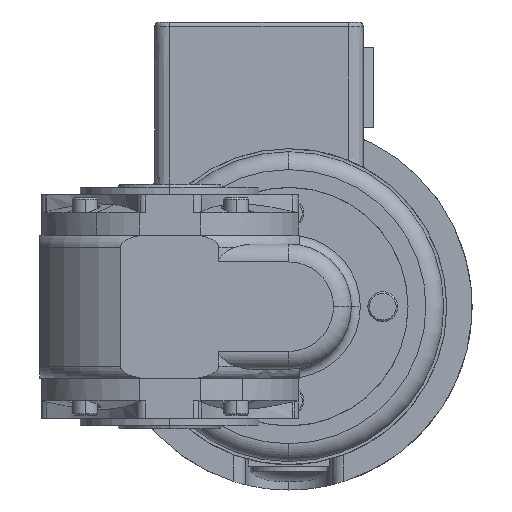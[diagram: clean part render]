
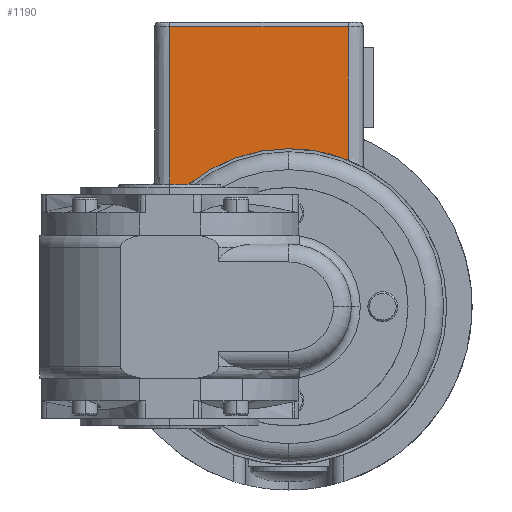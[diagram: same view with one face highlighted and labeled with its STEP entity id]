
A CAD part, left-side view. The second image highlights one B-rep face of the part: STEP entity #1190.
In plain terms, the highlighted planar face has unit normal (-1, 0, 0).
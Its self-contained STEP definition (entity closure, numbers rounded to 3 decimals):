
#750=CARTESIAN_POINT('',(-99.,416.997,-60.));
#760=DIRECTION('',(-1.,0.,0.));
#770=DIRECTION('',(0.,1.,0.));
#780=AXIS2_PLACEMENT_3D('',#750,#760,#770);
#790=PLANE('',#780);
#800=CARTESIAN_POINT('',(-99.,416.997,-87.));
#810=DIRECTION('',(0.,0.,1.));
#820=VECTOR('',#810,1.);
#830=LINE('',#800,#820);
#840=CARTESIAN_POINT('',(-99.,416.997,
-98.52));
#850=VERTEX_POINT('',#840);
#860=CARTESIAN_POINT('',(-99.,416.997,-53.7));
#870=VERTEX_POINT('',#860);
#880=EDGE_CURVE('',#850,#870,#830,.T.);
#890=ORIENTED_EDGE('',*,*,#880,.T.);
#900=CARTESIAN_POINT('',(-99.,437.,-147.6));
#910=DIRECTION('',(1.,0.,0.));
#920=DIRECTION('',(0.,0.,-1.));
#930=AXIS2_PLACEMENT_3D('',#900,#910,#920);
#940=CIRCLE('',#930,53.);
#950=CARTESIAN_POINT('',(-99.,437.,-94.6));
#960=VERTEX_POINT('',#950);
#970=EDGE_CURVE('',#960,#850,#940,.T.);
#980=ORIENTED_EDGE('',*,*,#970,.T.);
#990=CARTESIAN_POINT('',(-99.,477.003,
-112.833));
#1000=VERTEX_POINT('',#990);
#1010=EDGE_CURVE('',#1000,#960,#940,.T.);
#1020=ORIENTED_EDGE('',*,*,#1010,.T.);
#1030=CARTESIAN_POINT('',(-99.,477.003,-87.));
#1040=DIRECTION('',(0.,0.,1.));
#1050=VECTOR('',#1040,1.);
#1060=LINE('',#1030,#1050);
#1070=CARTESIAN_POINT('',(-99.,477.003,-53.7));
#1080=VERTEX_POINT('',#1070);
#1090=EDGE_CURVE('',#1000,#1080,#1060,.T.);
#1100=ORIENTED_EDGE('',*,*,#1090,.F.);
#1110=CARTESIAN_POINT('',(-99.,416.997,-53.7));
#1120=DIRECTION('',(0.,1.,0.));
#1130=VECTOR('',#1120,1.);
#1140=LINE('',#1110,#1130);
#1150=EDGE_CURVE('',#870,#1080,#1140,.T.);
#1160=ORIENTED_EDGE('',*,*,#1150,.T.);
#1170=EDGE_LOOP('',(#1160,#1100,#1020,#980,#890));
#1180=FACE_OUTER_BOUND('',#1170,.T.);
#1190=ADVANCED_FACE('',(#1180),#790,.T.);
